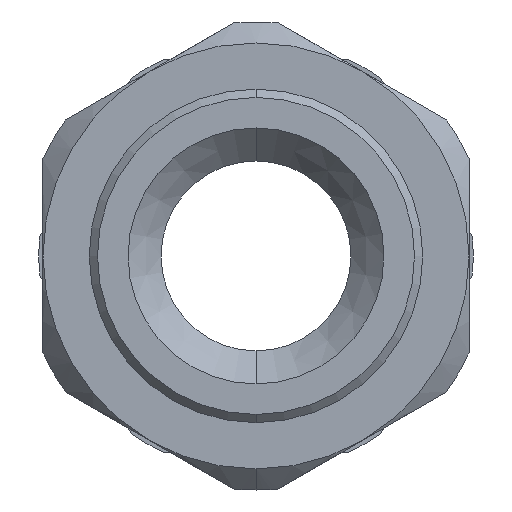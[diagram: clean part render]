
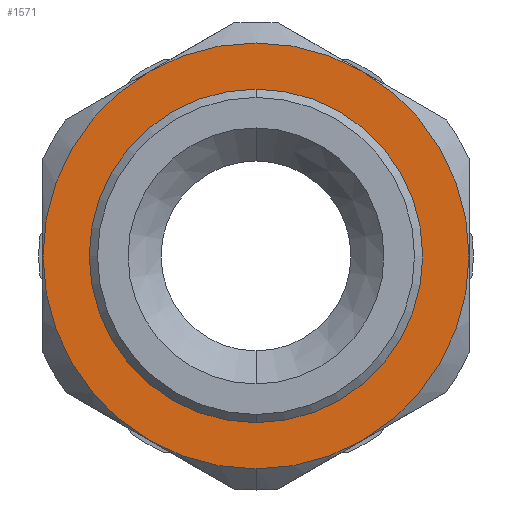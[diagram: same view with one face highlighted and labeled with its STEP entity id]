
A CAD part, front view. The second image highlights one B-rep face of the part: STEP entity #1571.
In plain terms, the highlighted planar face has unit normal (0, -1, 0).
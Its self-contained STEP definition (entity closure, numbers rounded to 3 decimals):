
#20 = AXIS2_PLACEMENT_3D ( 'NONE', #599, #598, #597 ) ;
#21 = AXIS2_PLACEMENT_3D ( 'NONE', #596, #595, #594 ) ;
#37 = AXIS2_PLACEMENT_3D ( 'NONE', #593, #592, #591 ) ;
#105 = AXIS2_PLACEMENT_3D ( 'NONE', #749, #748, #747 ) ;
#107 = AXIS2_PLACEMENT_3D ( 'NONE', #752, #751, #750 ) ;
#167 = AXIS2_PLACEMENT_3D ( 'NONE', #847, #846, #845 ) ;
#169 = FACE_OUTER_BOUND ( 'NONE', #1898, .T. ) ;
#171 = FACE_BOUND ( 'NONE', #1897, .T. ) ;
#203 = AXIS2_PLACEMENT_3D ( 'NONE', #899, #895, #894 ) ;
#205 = AXIS2_PLACEMENT_3D ( 'NONE', #902, #901, #900 ) ;
#345 = AXIS2_PLACEMENT_3D ( 'NONE', #1209, #1202, #1201 ) ;
#349 = AXIS2_PLACEMENT_3D ( 'NONE', #1194, #1190, #1189 ) ;
#463 = CARTESIAN_POINT ( 'NONE',  ( -6.45, 1., 11.172 ) ) ;
#466 = CARTESIAN_POINT ( 'NONE',  ( 0., 1., 10.1 ) ) ;
#474 = CARTESIAN_POINT ( 'NONE',  ( 12.9, 1., 0. ) ) ;
#475 = CARTESIAN_POINT ( 'NONE',  ( -6.45, 1., -11.172 ) ) ;
#511 = CARTESIAN_POINT ( 'NONE',  ( 6.45, 1., -11.172 ) ) ;
#513 = CARTESIAN_POINT ( 'NONE',  ( 0., 1., -12.9 ) ) ;
#519 = CARTESIAN_POINT ( 'NONE',  ( 6.45, 1., 11.172 ) ) ;
#533 = CARTESIAN_POINT ( 'NONE',  ( 0., 1., -10.1 ) ) ;
#554 = CARTESIAN_POINT ( 'NONE',  ( -12.9, 1., 0. ) ) ;
#591 = DIRECTION ( 'NONE',  ( 0., 0., -1. ) ) ;
#592 = DIRECTION ( 'NONE',  ( 0., -1., 0. ) ) ;
#593 = CARTESIAN_POINT ( 'NONE',  ( 0., 1., 0. ) ) ;
#594 = DIRECTION ( 'NONE',  ( 0., 0., -1. ) ) ;
#595 = DIRECTION ( 'NONE',  ( 0., -1., 0. ) ) ;
#596 = CARTESIAN_POINT ( 'NONE',  ( 0., 1., 0. ) ) ;
#597 = DIRECTION ( 'NONE',  ( 0., 0., -1. ) ) ;
#598 = DIRECTION ( 'NONE',  ( 0., -1., 0. ) ) ;
#599 = CARTESIAN_POINT ( 'NONE',  ( 0., 1., 0. ) ) ;
#747 = DIRECTION ( 'NONE',  ( 0., 0., -1. ) ) ;
#748 = DIRECTION ( 'NONE',  ( 0., -1., 0. ) ) ;
#749 = CARTESIAN_POINT ( 'NONE',  ( 0., 1., 0. ) ) ;
#750 = DIRECTION ( 'NONE',  ( 0., 0., -1. ) ) ;
#751 = DIRECTION ( 'NONE',  ( 0., -1., 0. ) ) ;
#752 = CARTESIAN_POINT ( 'NONE',  ( 0., 1., 0. ) ) ;
#845 = DIRECTION ( 'NONE',  ( 0., 0., 1. ) ) ;
#846 = DIRECTION ( 'NONE',  ( 0., 1., 0. ) ) ;
#847 = CARTESIAN_POINT ( 'NONE',  ( -14.175, 1., 0. ) ) ;
#848 = PLANE ( 'NONE',  #167 ) ;
#894 = DIRECTION ( 'NONE',  ( 0., 0., -1. ) ) ;
#895 = DIRECTION ( 'NONE',  ( 0., -1., 0. ) ) ;
#899 = CARTESIAN_POINT ( 'NONE',  ( 0., 1., 0. ) ) ;
#900 = DIRECTION ( 'NONE',  ( 0., 0., -1. ) ) ;
#901 = DIRECTION ( 'NONE',  ( 0., -1., 0. ) ) ;
#902 = CARTESIAN_POINT ( 'NONE',  ( 0., 1., 0. ) ) ;
#1189 = DIRECTION ( 'NONE',  ( 0., 0., -1. ) ) ;
#1190 = DIRECTION ( 'NONE',  ( 0., -1., 0. ) ) ;
#1194 = CARTESIAN_POINT ( 'NONE',  ( 0., 1., 0. ) ) ;
#1201 = DIRECTION ( 'NONE',  ( 0., 0., -1. ) ) ;
#1202 = DIRECTION ( 'NONE',  ( 0., -1., 0. ) ) ;
#1209 = CARTESIAN_POINT ( 'NONE',  ( 0., 1., 0. ) ) ;
#1275 = CIRCLE ( 'NONE', #37, 12.9 ) ;
#1276 = CIRCLE ( 'NONE', #21, 12.9 ) ;
#1278 = CIRCLE ( 'NONE', #20, 12.9 ) ;
#1289 = CIRCLE ( 'NONE', #105, 12.9 ) ;
#1290 = CIRCLE ( 'NONE', #107, 10.1 ) ;
#1304 = CIRCLE ( 'NONE', #203, 12.9 ) ;
#1305 = CIRCLE ( 'NONE', #205, 12.9 ) ;
#1335 = CIRCLE ( 'NONE', #349, 12.9 ) ;
#1337 = CIRCLE ( 'NONE', #345, 10.1 ) ;
#1463 = EDGE_CURVE ( 'NONE', #2352, #2419, #1337, .T. ) ;
#1467 = EDGE_CURVE ( 'NONE', #2372, #2374, #1335, .T. ) ;
#1553 = EDGE_CURVE ( 'NONE', #2366, #2422, #1305, .T. ) ;
#1555 = EDGE_CURVE ( 'NONE', #2422, #2332, #1304, .T. ) ;
#1571 = ADVANCED_FACE ( 'NONE', ( #171, #169 ), #848, .F. ) ;
#1598 = EDGE_CURVE ( 'NONE', #2419, #2352, #1290, .T. ) ;
#1599 = EDGE_CURVE ( 'NONE', #2411, #2366, #1289, .T. ) ;
#1638 = EDGE_CURVE ( 'NONE', #2410, #2372, #1278, .T. ) ;
#1639 = EDGE_CURVE ( 'NONE', #2332, #2410, #1276, .T. ) ;
#1640 = EDGE_CURVE ( 'NONE', #2374, #2411, #1275, .T. ) ;
#1897 = EDGE_LOOP ( 'NONE', ( #1922, #1923 ) ) ;
#1898 = EDGE_LOOP ( 'NONE', ( #1924, #1918, #1919, #1915, #1912, #1913, #1911 ) ) ;
#1911 = ORIENTED_EDGE ( 'NONE', *, *, #1640, .T. ) ;
#1912 = ORIENTED_EDGE ( 'NONE', *, *, #1638, .T. ) ;
#1913 = ORIENTED_EDGE ( 'NONE', *, *, #1467, .T. ) ;
#1915 = ORIENTED_EDGE ( 'NONE', *, *, #1639, .T. ) ;
#1918 = ORIENTED_EDGE ( 'NONE', *, *, #1553, .T. ) ;
#1919 = ORIENTED_EDGE ( 'NONE', *, *, #1555, .T. ) ;
#1922 = ORIENTED_EDGE ( 'NONE', *, *, #1463, .F. ) ;
#1923 = ORIENTED_EDGE ( 'NONE', *, *, #1598, .F. ) ;
#1924 = ORIENTED_EDGE ( 'NONE', *, *, #1599, .T. ) ;
#2332 = VERTEX_POINT ( 'NONE', #554 ) ;
#2352 = VERTEX_POINT ( 'NONE', #533 ) ;
#2366 = VERTEX_POINT ( 'NONE', #519 ) ;
#2372 = VERTEX_POINT ( 'NONE', #513 ) ;
#2374 = VERTEX_POINT ( 'NONE', #511 ) ;
#2410 = VERTEX_POINT ( 'NONE', #475 ) ;
#2411 = VERTEX_POINT ( 'NONE', #474 ) ;
#2419 = VERTEX_POINT ( 'NONE', #466 ) ;
#2422 = VERTEX_POINT ( 'NONE', #463 ) ;
